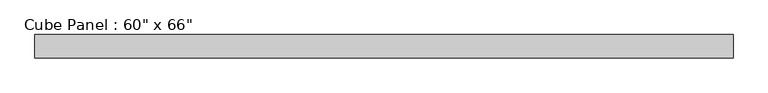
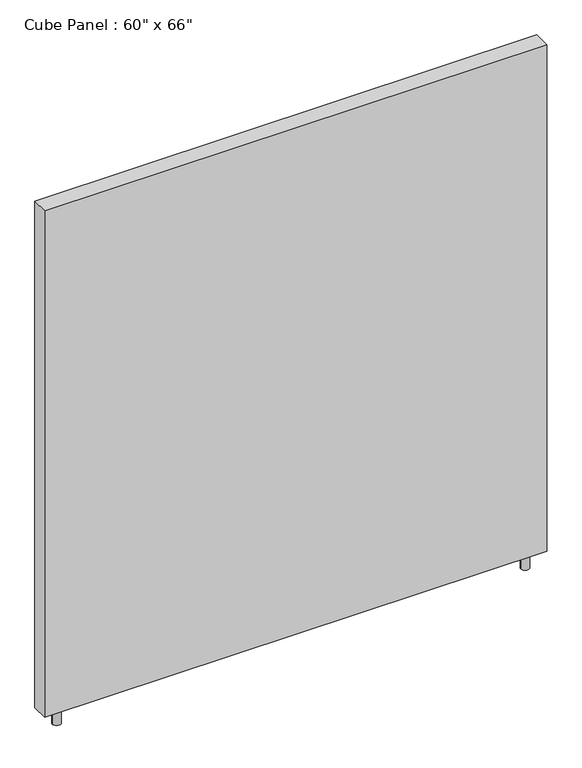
"""IFC4 building model written with IfcOpenShell, lengths in millimetres: furniture geometry."""

import ifcopenshell
import ifcopenshell.guid

model = None  # the IFC model being written
_history = None  # IfcOwnerHistory: only IFC2X3 demands one
_inside = {}  # id of a spatial element -> (the spatial element, [elements in it])
_under = {}  # id of a project, library or spatial element -> (it, [spatial elements below it])
_declared = {}  # id of a project -> (the project, [libraries it declares])
_typed = {}  # id of a type object -> (the type object, [elements of that type])
_made_of = {}  # id of a material, layer set ... -> (it, [elements and type objects made of it])


def new_model(schema):
    """Start an empty IFC model of exactly this schema.

    Asked for "IFC4X3", IfcOpenShell would pick the latest addendum, in which some entities
    have other attributes; the version numbers below select the first issue.
    IFC2X3 requires an IfcOwnerHistory on every rooted entity: one is made here for all.
    """
    global model, _history
    if schema == "IFC4X3":
        model = ifcopenshell.file(schema_version=(4, 3, 0, 0))
    else:
        model = ifcopenshell.file(schema=schema)
    _inside.clear()
    _under.clear()
    _declared.clear()
    _typed.clear()
    _made_of.clear()
    _history = None
    if model.schema == "IFC2X3":
        org = make("IfcOrganization", Name="unknown")
        user = make(
            "IfcPersonAndOrganization",
            ThePerson=make("IfcPerson", FamilyName="unknown"),
            TheOrganization=org,
        )
        app = make(
            "IfcApplication",
            ApplicationDeveloper=org,
            Version="unknown",
            ApplicationFullName="unknown",
            ApplicationIdentifier="unknown",
        )
        _history = make(
            "IfcOwnerHistory",
            OwningUser=user,
            OwningApplication=app,
            ChangeAction="ADDED",
            CreationDate=0,
        )
    return model


def make(cls, **values):
    """One entity of the class cls with the attributes given. An attribute that is None is left unset."""
    return model.create_entity(
        cls, **{name: value for name, value in values.items() if value is not None}
    )


def rooted(cls, **values):
    """An entity with a GlobalId (a new one), such as an element, a storey or a relation."""
    return make(cls, GlobalId=ifcopenshell.guid.new(), OwnerHistory=_history, **values)


def si_unit(unit_type, name, prefix=None):
    """IfcSIUnit, for example si_unit("LENGTHUNIT", "METRE", prefix="MILLI")."""
    return make("IfcSIUnit", UnitType=unit_type, Prefix=prefix, Name=name)


def assignment(units):
    """IfcUnitAssignment: the units of a project."""
    return None if units is None else make("IfcUnitAssignment", Units=units)


def point(xyz):
    """IfcCartesianPoint."""
    return None if xyz is None else make("IfcCartesianPoint", Coordinates=xyz)


def direction(xyz):
    """IfcDirection."""
    return None if xyz is None else make("IfcDirection", DirectionRatios=xyz)


def frame(location, z_axis=None, x_axis=None):
    """IfcAxis2Placement3D, a coordinate frame: its origin and axes. An axis left out is left unset."""
    return make(
        "IfcAxis2Placement3D",
        Location=point(location),
        Axis=direction(z_axis),
        RefDirection=direction(x_axis),
    )


def frame_2d(location, x_axis=None):
    """IfcAxis2Placement2D, a coordinate frame in the plane: its origin and x axis."""
    return make(
        "IfcAxis2Placement2D", Location=point(location), RefDirection=direction(x_axis)
    )


def origin():
    """The frame at (0, 0, 0) with its axes left unset."""
    return frame((0.0, 0.0, 0.0))


def origin_with_axes():
    """The frame at (0, 0, 0) with the z axis (0, 0, 1) and the x axis (1, 0, 0) written out."""
    return frame((0.0, 0.0, 0.0), z_axis=(0.0, 0.0, 1.0), x_axis=(1.0, 0.0, 0.0))


def place(relative_to, where):
    """IfcLocalPlacement: puts the frame where relative to a parent placement (None: the world)."""
    return make(
        "IfcLocalPlacement", PlacementRelTo=relative_to, RelativePlacement=where
    )


def context(
    kind, dimensions, precision=None, world=None, true_north=None, identifier=None
):
    """IfcGeometricRepresentationContext, for example the 3D "Model" context."""
    return make(
        "IfcGeometricRepresentationContext",
        ContextIdentifier=identifier,
        ContextType=kind,
        CoordinateSpaceDimension=dimensions,
        Precision=precision,
        WorldCoordinateSystem=world,
        TrueNorth=true_north,
    )


def project(units=None, contexts=None):
    """IfcProject with its units and contexts."""
    return rooted(
        "IfcProject",
        Name="project",
        RepresentationContexts=contexts,
        UnitsInContext=assignment(units),
    )


def spatial(cls, under=None, at=None, **own):
    """A site, building, storey or space (cls), placed at a placement, below another one or the project."""
    s = rooted(cls, ObjectPlacement=at, **own)
    if under is not None:
        _under.setdefault(under.id(), (under, []))[1].append(s)
    return s


def polyline(points):
    """IfcPolyline through the points."""
    return make("IfcPolyline", Points=[point(p) for p in points])


def circle_curve(where, radius):
    """IfcCircle in the frame where."""
    return make("IfcCircle", Position=where, Radius=radius)


def trimmed(basis, trim1, trim2, sense, master):
    """IfcTrimmedCurve: the piece of a basis curve between two trims."""
    return make(
        "IfcTrimmedCurve",
        BasisCurve=basis,
        Trim1=trim1,
        Trim2=trim2,
        SenseAgreement=sense,
        MasterRepresentation=master,
    )


def segment(curve, same_sense, transition):
    """IfcCompositeCurveSegment."""
    return make(
        "IfcCompositeCurveSegment",
        Transition=transition,
        SameSense=same_sense,
        ParentCurve=curve,
    )


def composite_curve(segments, self_intersect=None):
    """IfcCompositeCurve: segments joined end to end."""
    return make("IfcCompositeCurve", Segments=segments, SelfIntersect=self_intersect)


def outline(outer, holes=None, kind="AREA"):
    """IfcArbitraryClosedProfileDef: a profile drawn as a closed curve; with holes, ...WithVoids."""
    if holes is None:
        return make("IfcArbitraryClosedProfileDef", ProfileType=kind, OuterCurve=outer)
    return make(
        "IfcArbitraryProfileDefWithVoids",
        ProfileType=kind,
        OuterCurve=outer,
        InnerCurves=holes,
    )


def extrude(swept, where, along, depth):
    """IfcExtrudedAreaSolid: the profile swept, set in the frame where, extruded along a direction by depth."""
    return make(
        "IfcExtrudedAreaSolid",
        SweptArea=swept,
        Position=where,
        ExtrudedDirection=direction(along),
        Depth=depth,
    )


def shape(context_of_items, identifier, shape_type, items):
    """IfcShapeRepresentation: the items that make up one representation, for example the "Body"."""
    return make(
        "IfcShapeRepresentation",
        ContextOfItems=context_of_items,
        RepresentationIdentifier=identifier,
        RepresentationType=shape_type,
        Items=items,
    )


def source(mapping_origin, context_of_items, identifier, shape_type, items):
    """IfcRepresentationMap: a shape defined once, which mapped items show again and again."""
    return make(
        "IfcRepresentationMap",
        MappingOrigin=mapping_origin,
        MappedRepresentation=shape(context_of_items, identifier, shape_type, items),
    )


def transform(
    local_origin,
    x_axis=None,
    y_axis=None,
    z_axis=None,
    scale=None,
    scale2=None,
    scale3=None,
    uniform=True,
):
    """IfcCartesianTransformationOperator3D, or its non-uniform kind. x_axis, y_axis, z_axis: its Axis1, 2, 3."""
    if uniform:
        return make(
            "IfcCartesianTransformationOperator3D",
            Axis1=direction(x_axis),
            Axis2=direction(y_axis),
            LocalOrigin=point(local_origin),
            Scale=scale,
            Axis3=direction(z_axis),
        )
    return make(
        "IfcCartesianTransformationOperator3DnonUniform",
        Axis1=direction(x_axis),
        Axis2=direction(y_axis),
        LocalOrigin=point(local_origin),
        Scale=scale,
        Axis3=direction(z_axis),
        Scale2=scale2,
        Scale3=scale3,
    )


def mapped(mapping_source, mapping_target):
    """IfcMappedItem: shows the shape of a source again, moved by a transform."""
    return make(
        "IfcMappedItem", MappingSource=mapping_source, MappingTarget=mapping_target
    )


def made_of(thing, what):
    """Note that an element or type object is made of a material, layer set ...; save() writes the relation."""
    if what is not None:
        _made_of.setdefault(what.id(), (what, []))[1].append(thing)
    return thing


def element(
    cls,
    number,
    at=None,
    inside=None,
    cuts=None,
    type_object=None,
    material=None,
    context=None,
    identifier="Body",
    shape_type=None,
    held_by="IfcProductDefinitionShape",
    body=None,
    shapes=None,
    **own,
):
    """One element of the class cls, such as IfcWall. Its Tag is "e" and its number.

    at: its placement. inside: the storey or other place that contains it. cuts: it is an
    opening in that element (IfcRelVoidsElement). A single representation is given by context,
    identifier, shape_type and body (its items); several are given by shapes. held_by: the class
    of the entity that holds the representations. save() writes the other relations.
    """
    e = rooted(cls, Tag="e%d" % number, ObjectPlacement=at, **own)
    if body is not None:
        shapes = [shape(context, identifier, shape_type, body)]
    if shapes is not None:
        e.Representation = make(held_by, Representations=shapes)
    if inside is not None:
        _inside.setdefault(inside.id(), (inside, []))[1].append(e)
    if cuts is not None:
        rooted(
            "IfcRelVoidsElement", RelatingBuildingElement=cuts, RelatedOpeningElement=e
        )
    if type_object is not None:
        _typed.setdefault(type_object.id(), (type_object, []))[1].append(e)
    return made_of(e, material)


def aggregate(whole, parts):
    """IfcRelAggregates: a whole, such as a stair, and the parts it consists of."""
    return rooted("IfcRelAggregates", RelatingObject=whole, RelatedObjects=parts)


def save(model, path):
    """Write the relations noted so far, then the file.

    IfcRelAggregates (storeys below a building ...), IfcRelContainedInSpatialStructure (elements
    in a storey), IfcRelDefinesByType, IfcRelAssociatesMaterial and IfcRelDeclares: one each for
    every whole, place, type object, material and project.
    """
    for whole, parts in _under.values():
        aggregate(whole, parts)
    for where, things in _inside.values():
        rooted(
            "IfcRelContainedInSpatialStructure",
            RelatedElements=things,
            RelatingStructure=where,
        )
    for kind, things in _typed.values():
        rooted("IfcRelDefinesByType", RelatedObjects=things, RelatingType=kind)
    for what, things in _made_of.values():
        rooted("IfcRelAssociatesMaterial", RelatedObjects=things, RelatingMaterial=what)
    for by, libraries in _declared.values():
        rooted("IfcRelDeclares", RelatingContext=by, RelatedDefinitions=libraries)
    model.write(path)


def furniture_8d825890(model_context):
    return source(origin(), model_context, "Body", "SweptSolid", [
        extrude(outline(composite_curve([segment(trimmed(circle_curve(frame_2d((-711.2, 0.0)), 12.7), [point((-723.9, 0.0))], [point((-698.5, 0.0))], False, "CARTESIAN"), True, "CONTINUOUS"), segment(trimmed(circle_curve(frame_2d((-711.2, 0.0)), 12.7), [point((-698.5, 0.0))], [point((-723.9, 0.0))], False, "CARTESIAN"), True, "CONTINUOUS")], self_intersect=False)), origin_with_axes(), (0.0, 0.0, 1.0), 50.8),
        extrude(outline(composite_curve([segment(trimmed(circle_curve(frame_2d((711.2, 0.0)), 12.7), [point((698.5, 0.0))], [point((723.9, 0.0))], False, "CARTESIAN"), True, "CONTINUOUS"), segment(trimmed(circle_curve(frame_2d((711.2, 0.0)), 12.7), [point((723.9, 0.0))], [point((698.5, 0.0))], False, "CARTESIAN"), True, "CONTINUOUS")], self_intersect=False)), origin_with_axes(), (0.0, 0.0, 1.0), 50.8),
        extrude(outline(polyline([(762.0, -25.4), (-762.0, -25.4), (-762.0, 25.4), (762.0, 25.4), (762.0, -25.4)])), frame((0.0, 0.0, 50.8), z_axis=(0.0, 0.0, 1.0), x_axis=(1.0, 0.0, 0.0)), (0.0, 0.0, 1.0), 1625.6),
    ])


if __name__ == "__main__":
    model = new_model("IFC4")
    model_context = context("Model", 3, world=origin())
    ifc_project = project(units=[si_unit("LENGTHUNIT", "METRE", prefix="MILLI")], contexts=[model_context])
    site = spatial("IfcSite", under=ifc_project)
    building = spatial("IfcBuilding", under=site)
    placement = place(None, origin())
    furniture_shape = furniture_8d825890(model_context)
    element("IfcFurniture", 1, ObjectType="Cube Panel : 60\" x 66\"", at=placement, inside=building, context=model_context, shape_type="MappedRepresentation", body=[
        mapped(furniture_shape, transform((0.0, 0.0, 0.0), x_axis=(1.0, 0.0, 0.0), y_axis=(0.0, 1.0, 0.0), z_axis=(0.0, 0.0, 1.0))),
    ])
    save(model, "model.ifc")
